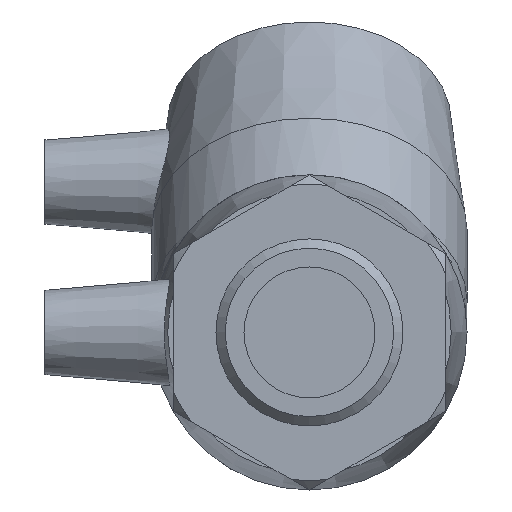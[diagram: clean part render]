
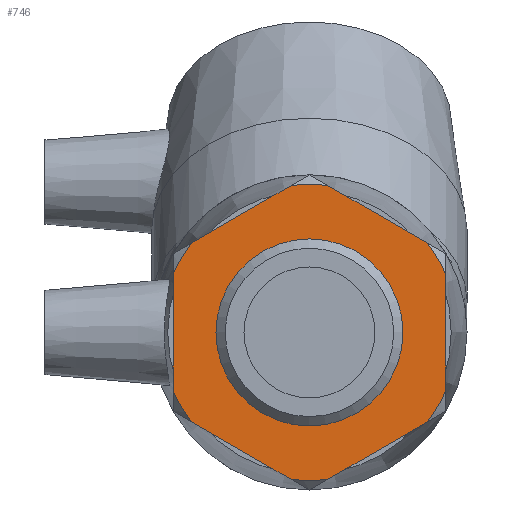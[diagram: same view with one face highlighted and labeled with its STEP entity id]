
A CAD part, left-side view. The second image highlights one B-rep face of the part: STEP entity #746.
In plain terms, the highlighted planar face has unit normal (-1, 0, 0).
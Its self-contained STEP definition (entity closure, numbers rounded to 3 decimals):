
#19=LINE('',#1163,#37);
#23=LINE('',#1187,#41);
#26=LINE('',#1209,#44);
#29=LINE('',#1231,#47);
#34=LINE('',#1268,#52);
#36=LINE('',#1287,#54);
#37=VECTOR('',#926,20.469);
#41=VECTOR('',#932,20.469);
#44=VECTOR('',#937,20.469);
#47=VECTOR('',#942,20.469);
#52=VECTOR('',#949,20.469);
#54=VECTOR('',#953,20.469);
#101=PLANE('',#813);
#121=FACE_BOUND('',#228,.T.);
#165=FACE_OUTER_BOUND('',#227,.T.);
#227=EDGE_LOOP('',(#584,#585,#586,#587,#588,#589,#590,#591,#592,#593,#594,
#595));
#228=EDGE_LOOP('',(#596));
#315=CIRCLE('',#806,16.625);
#316=CIRCLE('',#814,26.32);
#317=CIRCLE('',#815,26.32);
#318=CIRCLE('',#816,26.32);
#319=CIRCLE('',#817,26.32);
#320=CIRCLE('',#818,26.32);
#321=CIRCLE('',#819,26.32);
#364=VERTEX_POINT('',#1154);
#365=VERTEX_POINT('',#1157);
#367=VERTEX_POINT('',#1162);
#373=VERTEX_POINT('',#1182);
#374=VERTEX_POINT('',#1186);
#379=VERTEX_POINT('',#1204);
#380=VERTEX_POINT('',#1208);
#385=VERTEX_POINT('',#1226);
#386=VERTEX_POINT('',#1230);
#392=VERTEX_POINT('',#1249);
#396=VERTEX_POINT('',#1264);
#397=VERTEX_POINT('',#1270);
#400=VERTEX_POINT('',#1283);
#439=EDGE_CURVE('',#364,#364,#315,.T.);
#441=EDGE_CURVE('',#367,#365,#19,.T.);
#449=EDGE_CURVE('',#374,#373,#23,.T.);
#456=EDGE_CURVE('',#380,#379,#26,.T.);
#463=EDGE_CURVE('',#386,#385,#29,.T.);
#475=EDGE_CURVE('',#392,#396,#34,.T.);
#481=EDGE_CURVE('',#397,#400,#36,.T.);
#482=EDGE_CURVE('',#392,#400,#316,.T.);
#483=EDGE_CURVE('',#386,#396,#317,.T.);
#484=EDGE_CURVE('',#380,#385,#318,.T.);
#485=EDGE_CURVE('',#374,#379,#319,.T.);
#486=EDGE_CURVE('',#367,#373,#320,.T.);
#487=EDGE_CURVE('',#397,#365,#321,.T.);
#584=ORIENTED_EDGE('',*,*,#481,.T.);
#585=ORIENTED_EDGE('',*,*,#482,.F.);
#586=ORIENTED_EDGE('',*,*,#475,.T.);
#587=ORIENTED_EDGE('',*,*,#483,.F.);
#588=ORIENTED_EDGE('',*,*,#463,.T.);
#589=ORIENTED_EDGE('',*,*,#484,.F.);
#590=ORIENTED_EDGE('',*,*,#456,.T.);
#591=ORIENTED_EDGE('',*,*,#485,.F.);
#592=ORIENTED_EDGE('',*,*,#449,.T.);
#593=ORIENTED_EDGE('',*,*,#486,.F.);
#594=ORIENTED_EDGE('',*,*,#441,.T.);
#595=ORIENTED_EDGE('',*,*,#487,.F.);
#596=ORIENTED_EDGE('',*,*,#439,.T.);
#746=ADVANCED_FACE('',(#165,#121),#101,.T.);
#806=AXIS2_PLACEMENT_3D('',#1155,#922,#923);
#813=AXIS2_PLACEMENT_3D('',#1288,#954,#955);
#814=AXIS2_PLACEMENT_3D('',#1289,#956,#957);
#815=AXIS2_PLACEMENT_3D('',#1290,#958,#959);
#816=AXIS2_PLACEMENT_3D('',#1291,#960,#961);
#817=AXIS2_PLACEMENT_3D('',#1292,#962,#963);
#818=AXIS2_PLACEMENT_3D('',#1293,#964,#965);
#819=AXIS2_PLACEMENT_3D('',#1294,#966,#967);
#922=DIRECTION('center_axis',(1.,0.,0.));
#923=DIRECTION('ref_axis',(0.,0.,-1.));
#926=DIRECTION('',(0.,0.,-1.));
#932=DIRECTION('',(0.,0.866,-0.5));
#937=DIRECTION('',(0.,0.866,0.5));
#942=DIRECTION('',(0.,0.,1.));
#949=DIRECTION('',(0.,-0.866,0.5));
#953=DIRECTION('',(0.,-0.866,-0.5));
#954=DIRECTION('center_axis',(-1.,0.,0.));
#955=DIRECTION('ref_axis',(0.,0.,1.));
#956=DIRECTION('center_axis',(1.,0.,0.));
#957=DIRECTION('ref_axis',(0.,0.,1.));
#958=DIRECTION('center_axis',(1.,0.,0.));
#959=DIRECTION('ref_axis',(0.,0.,1.));
#960=DIRECTION('center_axis',(1.,0.,0.));
#961=DIRECTION('ref_axis',(0.,0.,1.));
#962=DIRECTION('center_axis',(1.,0.,0.));
#963=DIRECTION('ref_axis',(0.,0.,1.));
#964=DIRECTION('center_axis',(1.,0.,0.));
#965=DIRECTION('ref_axis',(0.,0.,1.));
#966=DIRECTION('center_axis',(1.,0.,0.));
#967=DIRECTION('ref_axis',(0.,0.,1.));
#1154=CARTESIAN_POINT('',(-61.427,0.,-16.625));
#1155=CARTESIAN_POINT('Origin',(-61.427,0.,0.));
#1157=CARTESIAN_POINT('',(-61.427,24.249,-10.234));
#1162=CARTESIAN_POINT('',(-61.427,24.249,10.234));
#1163=CARTESIAN_POINT('',(-61.427,24.249,-21.));
#1182=CARTESIAN_POINT('',(-61.427,20.988,15.883));
#1186=CARTESIAN_POINT('',(-61.427,3.261,26.117));
#1187=CARTESIAN_POINT('',(-61.427,24.249,14.));
#1204=CARTESIAN_POINT('',(-61.427,-3.261,26.117));
#1208=CARTESIAN_POINT('',(-61.427,-20.988,15.883));
#1209=CARTESIAN_POINT('',(-61.427,-12.124,21.));
#1226=CARTESIAN_POINT('',(-61.427,-24.249,10.234));
#1230=CARTESIAN_POINT('',(-61.427,-24.249,-10.234));
#1231=CARTESIAN_POINT('',(-61.427,-24.249,-7.));
#1249=CARTESIAN_POINT('',(-61.427,-3.261,-26.117));
#1264=CARTESIAN_POINT('',(-61.427,-20.988,-15.883));
#1268=CARTESIAN_POINT('',(-61.427,-12.124,-21.));
#1270=CARTESIAN_POINT('',(-61.427,20.988,-15.883));
#1283=CARTESIAN_POINT('',(-61.427,3.261,-26.117));
#1287=CARTESIAN_POINT('',(-61.427,0.,-28.));
#1288=CARTESIAN_POINT('Origin',(-61.427,0.,-28.));
#1289=CARTESIAN_POINT('Origin',(-61.427,0.,0.));
#1290=CARTESIAN_POINT('Origin',(-61.427,0.,0.));
#1291=CARTESIAN_POINT('Origin',(-61.427,0.,0.));
#1292=CARTESIAN_POINT('Origin',(-61.427,0.,0.));
#1293=CARTESIAN_POINT('Origin',(-61.427,0.,0.));
#1294=CARTESIAN_POINT('Origin',(-61.427,0.,0.));
